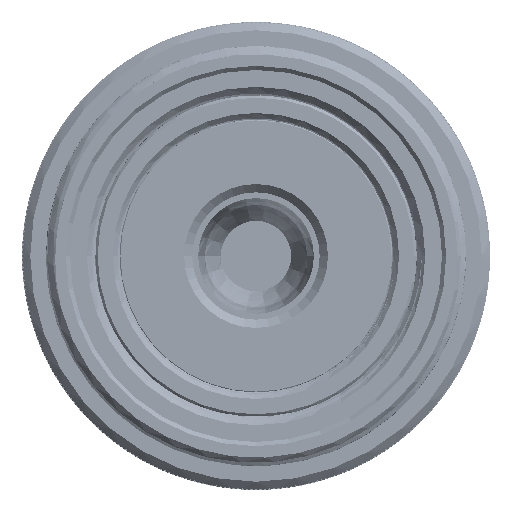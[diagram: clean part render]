
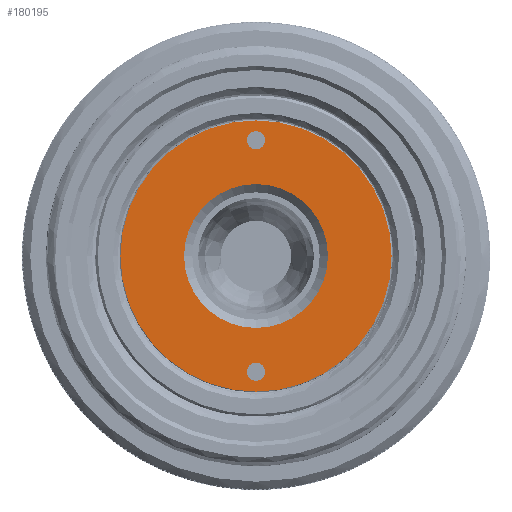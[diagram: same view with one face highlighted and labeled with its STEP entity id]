
A CAD part, front view. The second image highlights one B-rep face of the part: STEP entity #180195.
In plain terms, the highlighted planar face has unit normal (0, -1, 0).
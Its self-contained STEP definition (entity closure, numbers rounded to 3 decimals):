
#78239=CARTESIAN_POINT('',(0.,-4.5,-7.));
#78240=DIRECTION('',(0.,-1.,0.));
#78241=DIRECTION('',(0.,0.,-1.));
#78242=AXIS2_PLACEMENT_3D('',#78239,#78240,#78241);
#78244=CARTESIAN_POINT('',(0.,-4.5,-7.));
#78245=DIRECTION('',(0.,-1.,0.));
#78246=DIRECTION('',(0.,0.,1.));
#78247=AXIS2_PLACEMENT_3D('',#78244,#78245,#78246);
#78249=CARTESIAN_POINT('',(0.,-4.5,7.));
#78250=DIRECTION('',(0.,-1.,0.));
#78251=DIRECTION('',(0.,0.,-1.));
#78252=AXIS2_PLACEMENT_3D('',#78249,#78250,#78251);
#78254=CARTESIAN_POINT('',(0.,-4.5,7.));
#78255=DIRECTION('',(0.,-1.,0.));
#78256=DIRECTION('',(0.,0.,1.));
#78257=AXIS2_PLACEMENT_3D('',#78254,#78255,#78256);
#78259=CARTESIAN_POINT('',(0.,-4.5,0.));
#78260=DIRECTION('',(0.,1.,0.));
#78261=DIRECTION('',(1.,0.,0.));
#78262=AXIS2_PLACEMENT_3D('',#78259,#78260,#78261);
#78264=CARTESIAN_POINT('',(0.,-4.5,0.));
#78265=DIRECTION('',(0.,1.,0.));
#78266=DIRECTION('',(-1.,0.,0.));
#78267=AXIS2_PLACEMENT_3D('',#78264,#78265,#78266);
#78269=CARTESIAN_POINT('',(0.,-4.5,0.));
#78270=DIRECTION('',(0.,1.,0.));
#78271=DIRECTION('',(1.,0.,0.));
#78272=AXIS2_PLACEMENT_3D('',#78269,#78270,#78271);
#78274=CARTESIAN_POINT('',(0.,-4.5,0.));
#78275=DIRECTION('',(0.,1.,0.));
#78276=DIRECTION('',(-1.,0.,0.));
#78277=AXIS2_PLACEMENT_3D('',#78274,#78275,#78276);
#96170=CARTESIAN_POINT('',(0.,-4.5,-7.55));
#96171=CARTESIAN_POINT('',(0.,-4.5,-6.45));
#96172=VERTEX_POINT('',#96170);
#96173=VERTEX_POINT('',#96171);
#96174=CARTESIAN_POINT('',(0.,-4.5,6.45));
#96175=CARTESIAN_POINT('',(0.,-4.5,7.55));
#96176=VERTEX_POINT('',#96174);
#96177=VERTEX_POINT('',#96175);
#96178=CARTESIAN_POINT('',(4.35,-4.5,0.));
#96179=CARTESIAN_POINT('',(-4.35,-4.5,0.));
#96180=VERTEX_POINT('',#96178);
#96181=VERTEX_POINT('',#96179);
#96190=CARTESIAN_POINT('',(8.2,-4.5,0.));
#96191=CARTESIAN_POINT('',(-8.2,-4.5,0.));
#96192=VERTEX_POINT('',#96190);
#96193=VERTEX_POINT('',#96191);
#180167=CARTESIAN_POINT('',(0.,-4.5,0.));
#180168=DIRECTION('',(0.,1.,0.));
#180169=DIRECTION('',(1.,0.,0.));
#180170=AXIS2_PLACEMENT_3D('',#180167,#180168,#180169);
#180171=PLANE('',#180170);
#180173=ORIENTED_EDGE('',*,*,#180172,.T.);
#180175=ORIENTED_EDGE('',*,*,#180174,.T.);
#180176=EDGE_LOOP('',(#180173,#180175));
#180177=FACE_OUTER_BOUND('',#180176,.F.);
#180179=ORIENTED_EDGE('',*,*,#180178,.T.);
#180181=ORIENTED_EDGE('',*,*,#180180,.T.);
#180182=EDGE_LOOP('',(#180179,#180181));
#180183=FACE_BOUND('',#180182,.F.);
#180185=ORIENTED_EDGE('',*,*,#180184,.F.);
#180186=ORIENTED_EDGE('',*,*,#180150,.F.);
#180187=EDGE_LOOP('',(#180185,#180186));
#180188=FACE_BOUND('',#180187,.F.);
#180190=ORIENTED_EDGE('',*,*,#180189,.T.);
#180192=ORIENTED_EDGE('',*,*,#180191,.T.);
#180193=EDGE_LOOP('',(#180190,#180192));
#180194=FACE_BOUND('',#180193,.F.);
#78243=CIRCLE('',#78242,0.55);
#78248=CIRCLE('',#78247,0.55);
#78253=CIRCLE('',#78252,0.55);
#78258=CIRCLE('',#78257,0.55);
#78263=CIRCLE('',#78262,4.35);
#78268=CIRCLE('',#78267,4.35);
#78273=CIRCLE('',#78272,8.2);
#78278=CIRCLE('',#78277,8.2);
#180150=EDGE_CURVE('',#96181,#96180,#78268,.T.);
#180172=EDGE_CURVE('',#96192,#96193,#78273,.T.);
#180174=EDGE_CURVE('',#96193,#96192,#78278,.T.);
#180178=EDGE_CURVE('',#96176,#96177,#78253,.T.);
#180180=EDGE_CURVE('',#96177,#96176,#78258,.T.);
#180184=EDGE_CURVE('',#96180,#96181,#78263,.T.);
#180189=EDGE_CURVE('',#96172,#96173,#78243,.T.);
#180191=EDGE_CURVE('',#96173,#96172,#78248,.T.);
#180195=ADVANCED_FACE('',(#180177,#180183,#180188,#180194),#180171,.F.);
